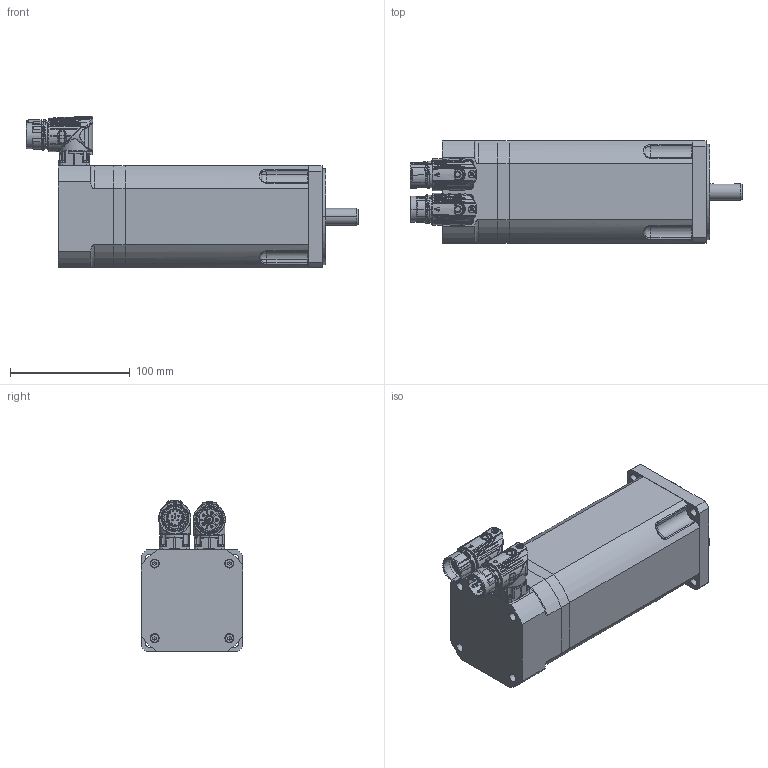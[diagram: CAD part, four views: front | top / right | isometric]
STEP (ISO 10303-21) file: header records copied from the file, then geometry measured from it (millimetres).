
FILE_DESCRIPTION(('CATIA V5 STEP Exchange'),'2;1');
FILE_NAME('C:\Documents and Settings\max\Documenti\sangallimotori\3d step\tg3\motore_DSM5_34.stp','2010-12-12T17:45:51+00:00',('none'),('none'),'CATIA Version 5 Release 10 (IN-8)','CATIA V5 STEP AP203',' none');
FILE_SCHEMA(('CONFIG_CONTROL_DESIGN'));
Assembly tree (27 placements, depth 0):
Bounding box: 276.71 x 85 x 126.43 mm (x, y, z)
Volume: 1469783.2 mm3; surface area: 154105.6 mm2
Topology: 23 solids, 28 shells, 4107 faces, 13917 edges, 9832 vertices
Faces by surface type: cylinder 1492, bspline 1326, plane 591, torus 348, cone 233, sphere 109, revolution 8
Entity records: 254899 total; most frequent: CARTESIAN_POINT 165131, ORIENTED_EDGE 25414, EDGE_CURVE 12764, VERTEX_POINT 9182, DIRECTION 8725, B_SPLINE_CURVE_WITH_KNOTS 7926, AXIS2_PLACEMENT_3D 4353, EDGE_LOOP 3819
